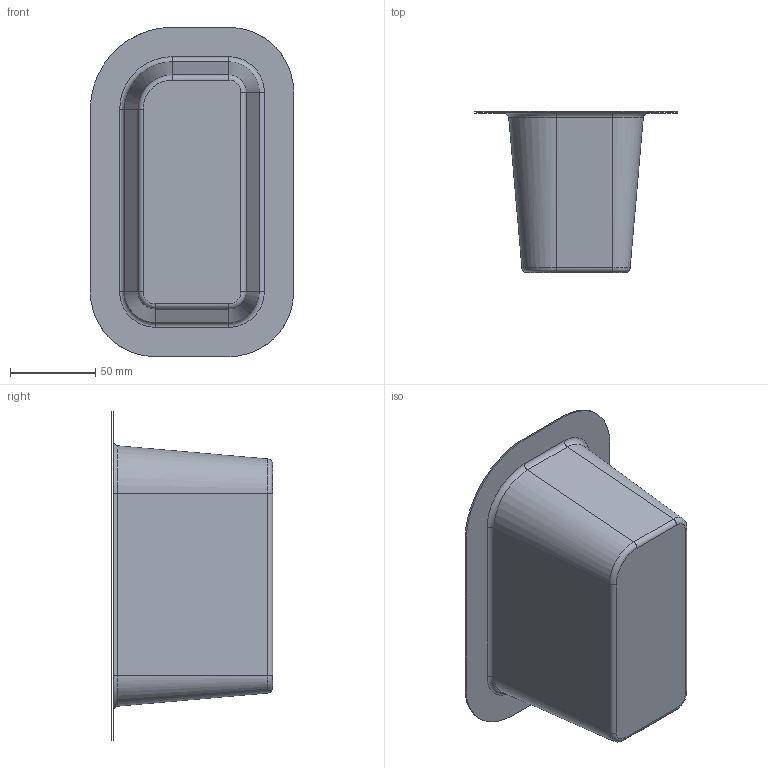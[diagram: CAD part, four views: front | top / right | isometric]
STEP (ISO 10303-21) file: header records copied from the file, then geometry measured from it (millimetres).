
FILE_DESCRIPTION(('CATIA V5 STEP Exchange'),'2;1');
FILE_NAME('C:\_Andres\UNIVERSIDAD\IQS\ASIGNATURAS\DAO\Controles\1617\c3\2inicio\Garcia_Granada_control3_v37.stp','2017-02-17T14:22:16+00:00',('none'),('none'),'CATIA Version 5-6 Release 2014 SP1 HF18','CATIA V5 STEP AP203','none');
FILE_SCHEMA(('CONFIG_CONTROL_DESIGN'));
Length unit declared in the file: millimetre
Products named in the file (1): Garcia_Granada_control3_v37
Bounding box: 119.39 x 94.64 x 193.39 mm (x, y, z)
Surface area: 77142.8 mm2 (no closed solid volume)
Topology: 0 solids, 2 shells, 27 faces, 80 edges, 57 vertices
Faces by surface type: bspline 16, cylinder 8, plane 3
Entity records: 2033 total; most frequent: CARTESIAN_POINT 1437, ORIENTED_EDGE 128, EDGE_CURVE 72, B_SPLINE_CURVE_WITH_KNOTS 54, DIRECTION 50, VERTEX_POINT 48, EDGE_LOOP 28, ADVANCED_FACE 27
